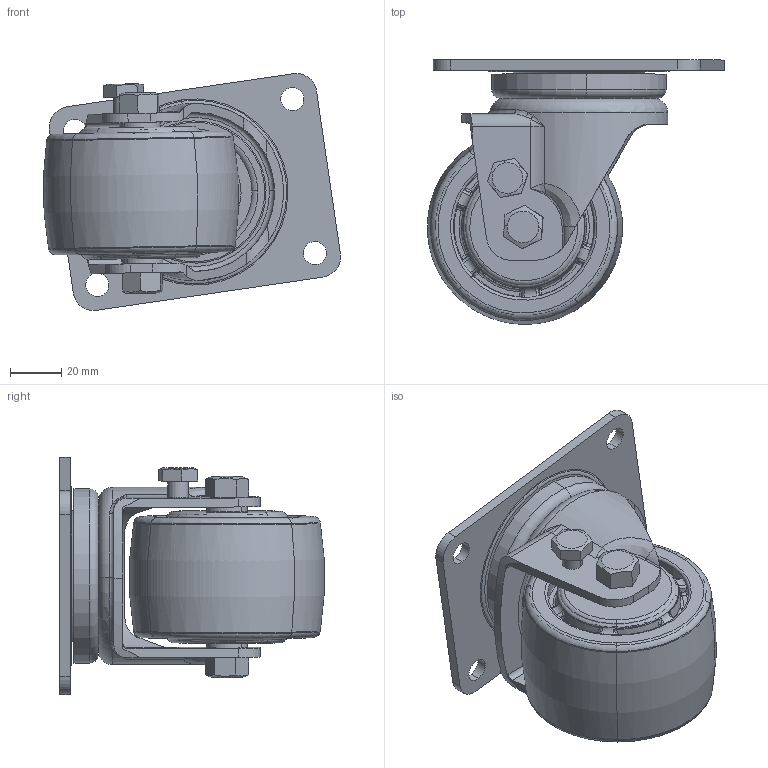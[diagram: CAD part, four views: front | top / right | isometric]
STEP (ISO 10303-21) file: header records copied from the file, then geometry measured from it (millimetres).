
FILE_DESCRIPTION (( 'STEP AP203' ), '1' );
FILE_NAME ('YKTP-8030-3.STEP', '2022-08-12T03:18:26', ( 'pc' ), ( 'Microsoft' ), 'SwSTEP 2.0', 'SolidWorks 2014', '' );
FILE_SCHEMA (( 'CONFIG_CONTROL_DESIGN' ));
Length unit declared in the file: millimetre
Products named in the file (11): 7; 8; 88; 5; 9; 1; YKTP-8030-3; 2; 3; 4; 6
Assembly tree (11 placements, depth 2):
  YKTP-8030-3
    5
    1
    2
    3
    4
    6
    7
    8  x2
    88
    9
Bounding box: 115.59 x 102.81 x 92.19 mm (x, y, z)
Volume: 465584.6 mm3; surface area: 107114.7 mm2
Topology: 11 solids, 11 shells, 649 faces, 1466 edges, 868 vertices
Faces by surface type: bspline 142, cylinder 137, plane 132, torus 115, cone 62, sphere 61
Entity records: 25213 total; most frequent: CARTESIAN_POINT 10654, ORIENTED_EDGE 2860, DIRECTION 2774, EDGE_CURVE 1430, AXIS2_PLACEMENT_3D 1266, VERTEX_POINT 848, CIRCLE 758, EDGE_LOOP 698
